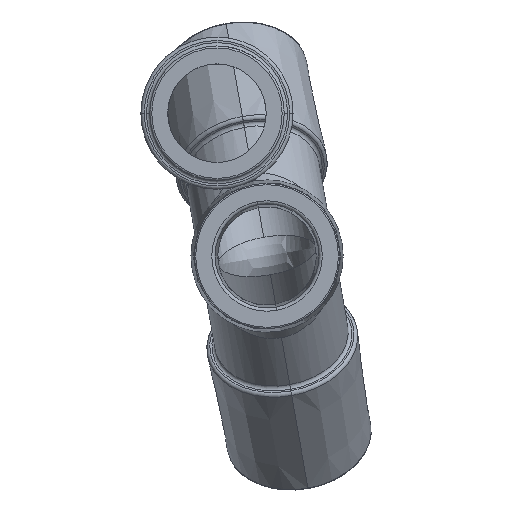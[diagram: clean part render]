
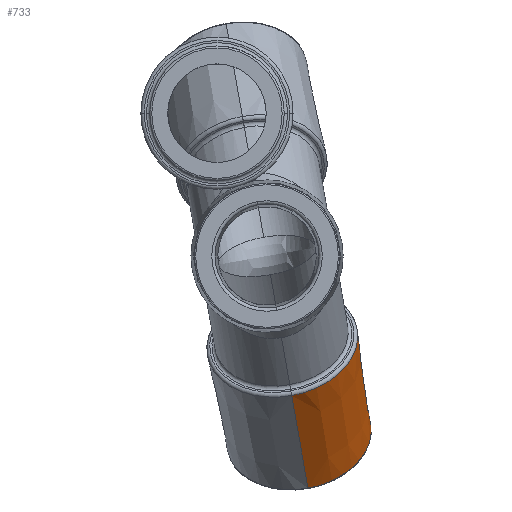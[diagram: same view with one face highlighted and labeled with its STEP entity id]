
A CAD part, left-side view. The second image highlights one B-rep face of the part: STEP entity #733.
In plain terms, the highlighted conical face has half-angle 1.432 degrees and reference radius 11.335 mm.
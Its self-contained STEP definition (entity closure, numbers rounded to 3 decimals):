
#371=CONICAL_SURFACE('',#6375,11.335,1.432);
#391=FACE_OUTER_BOUND('',#2077,.T.);
#733=ADVANCED_FACE('',(#391),#371,.T.);
#1182=CIRCLE('',#6373,10.815);
#1183=CIRCLE('',#6374,11.322);
#1340=LINE('',#10195,#1637);
#1341=LINE('',#10199,#1638);
#1637=VECTOR('',#6963,1.);
#1638=VECTOR('',#6966,1.);
#2077=EDGE_LOOP('',(#2655,#2656,#2657,#2658));
#2655=ORIENTED_EDGE('',*,*,#5081,.T.);
#2656=ORIENTED_EDGE('',*,*,#5082,.F.);
#2657=ORIENTED_EDGE('',*,*,#5083,.T.);
#2658=ORIENTED_EDGE('',*,*,#5084,.T.);
#4475=VERTEX_POINT('',#10193);
#4476=VERTEX_POINT('',#10194);
#4477=VERTEX_POINT('',#10196);
#4478=VERTEX_POINT('',#10198);
#5081=EDGE_CURVE('',#4475,#4476,#1182,.T.);
#5082=EDGE_CURVE('',#4477,#4476,#1340,.T.);
#5083=EDGE_CURVE('',#4477,#4478,#1183,.T.);
#5084=EDGE_CURVE('',#4478,#4475,#1341,.T.);
#6373=AXIS2_PLACEMENT_3D('',#10192,#6961,#6962);
#6374=AXIS2_PLACEMENT_3D('',#10197,#6964,#6965);
#6375=AXIS2_PLACEMENT_3D('',#10200,#6967,#6968);
#6961=DIRECTION('',(-0.707,0.123,0.696));
#6962=DIRECTION('',(0.707,0.123,0.696));
#6963=DIRECTION('',(0.689,-0.126,-0.714));
#6964=DIRECTION('',(0.707,-0.123,-0.696));
#6965=DIRECTION('',(0.707,0.123,0.696));
#6966=DIRECTION('',(0.725,-0.12,-0.679));
#6967=DIRECTION('',(-0.707,0.123,0.696));
#6968=DIRECTION('',(0.707,0.123,0.696));
#10192=CARTESIAN_POINT('',(66.318,-12.214,-123.269));
#10193=CARTESIAN_POINT('',(58.671,-13.542,-130.8));
#10194=CARTESIAN_POINT('',(73.965,-10.886,-115.738));
#10195=CARTESIAN_POINT('',(59.622,-8.268,-100.888));
#10196=CARTESIAN_POINT('',(59.975,-8.332,-101.254));
#10197=CARTESIAN_POINT('',(51.969,-9.722,-109.138));
#10198=CARTESIAN_POINT('',(43.963,-11.113,-117.023));
#10199=CARTESIAN_POINT('',(43.592,-11.051,-116.675));
#10200=CARTESIAN_POINT('',(51.607,-9.659,-108.782));
